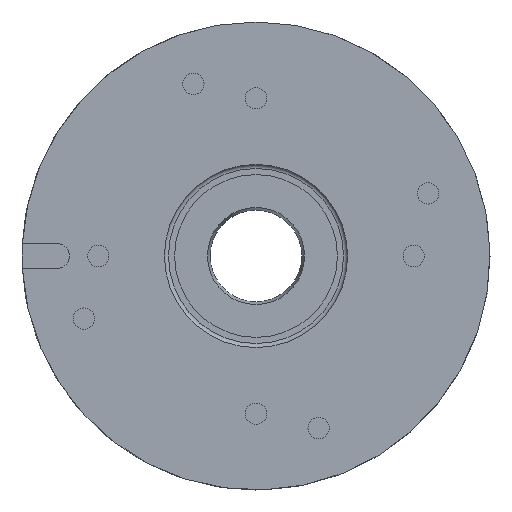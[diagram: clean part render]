
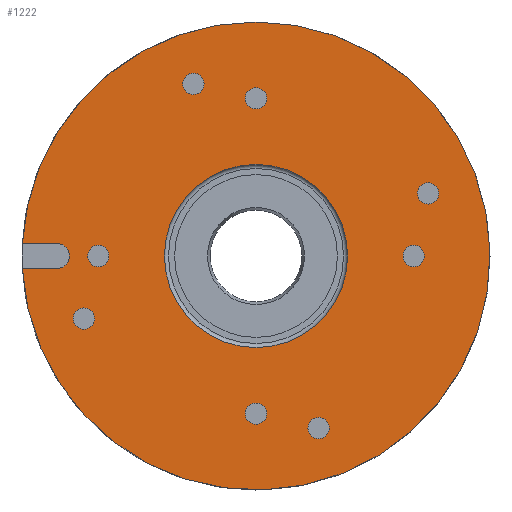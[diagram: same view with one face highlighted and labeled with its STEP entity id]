
A CAD part, left-side view. The second image highlights one B-rep face of the part: STEP entity #1222.
In plain terms, the highlighted planar face has unit normal (-1, 0, 0).
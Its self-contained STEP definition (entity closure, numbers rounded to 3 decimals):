
#8 = DIRECTION ( 'NONE',  ( 1., 0., 0. ) ) ;
#12 = VERTEX_POINT ( 'NONE', #997 ) ;
#20 = LINE ( 'NONE', #1396, #1444 ) ;
#29 = VERTEX_POINT ( 'NONE', #567 ) ;
#45 = DIRECTION ( 'NONE',  ( 0., 1., 0. ) ) ;
#51 = DIRECTION ( 'NONE',  ( -1., 0., 0. ) ) ;
#61 = ORIENTED_EDGE ( 'NONE', *, *, #465, .T. ) ;
#92 = EDGE_CURVE ( 'NONE', #1596, #1596, #1011, .T. ) ;
#111 = EDGE_LOOP ( 'NONE', ( #1311 ) ) ;
#113 = ORIENTED_EDGE ( 'NONE', *, *, #1733, .F. ) ;
#119 = CARTESIAN_POINT ( 'NONE',  ( 2., 0., 0. ) ) ;
#122 = AXIS2_PLACEMENT_3D ( 'NONE', #856, #721, #864 ) ;
#149 = EDGE_CURVE ( 'NONE', #29, #1738, #20, .T. ) ;
#152 = PLANE ( 'NONE',  #200 ) ;
#167 = FACE_BOUND ( 'NONE', #196, .T. ) ;
#168 = DIRECTION ( 'NONE',  ( 0., 0., 1. ) ) ;
#182 = EDGE_CURVE ( 'NONE', #1332, #967, #616, .T. ) ;
#183 = AXIS2_PLACEMENT_3D ( 'NONE', #584, #869, #276 ) ;
#186 = DIRECTION ( 'NONE',  ( -1., 0., 0. ) ) ;
#193 = DIRECTION ( 'NONE',  ( 0., 0., 1. ) ) ;
#196 = EDGE_LOOP ( 'NONE', ( #350 ) ) ;
#200 = AXIS2_PLACEMENT_3D ( 'NONE', #1301, #8, #1450 ) ;
#218 = DIRECTION ( 'NONE',  ( -1., 0., 0. ) ) ;
#276 = DIRECTION ( 'NONE',  ( 0., 0., 1. ) ) ;
#280 = EDGE_CURVE ( 'NONE', #1783, #1783, #1347, .T. ) ;
#309 = EDGE_LOOP ( 'NONE', ( #1684 ) ) ;
#314 = CARTESIAN_POINT ( 'NONE',  ( 2., 0., 31. ) ) ;
#320 = CARTESIAN_POINT ( 'NONE',  ( 2., 39.2, 2.5 ) ) ;
#350 = ORIENTED_EDGE ( 'NONE', *, *, #1718, .F. ) ;
#369 = ORIENTED_EDGE ( 'NONE', *, *, #1195, .F. ) ;
#370 = DIRECTION ( 'NONE',  ( 0., 0., 1. ) ) ;
#415 = FACE_OUTER_BOUND ( 'NONE', #1020, .T. ) ;
#417 = DIRECTION ( 'NONE',  ( -1., 0., 0. ) ) ;
#422 = AXIS2_PLACEMENT_3D ( 'NONE', #1308, #1168, #168 ) ;
#425 = EDGE_LOOP ( 'NONE', ( #369 ) ) ;
#465 = EDGE_CURVE ( 'NONE', #1738, #967, #497, .T. ) ;
#497 = CIRCLE ( 'NONE', #122, 46. ) ;
#498 = CARTESIAN_POINT ( 'NONE',  ( 2., -31., 2.1 ) ) ;
#510 = EDGE_CURVE ( 'NONE', #29, #1332, #1666, .T. ) ;
#519 = DIRECTION ( 'NONE',  ( 0., 1., 0. ) ) ;
#524 = FACE_BOUND ( 'NONE', #623, .T. ) ;
#530 = CARTESIAN_POINT ( 'NONE',  ( 2., 0., 33.1 ) ) ;
#567 = CARTESIAN_POINT ( 'NONE',  ( 2., 39.2, -2.5 ) ) ;
#568 = EDGE_CURVE ( 'NONE', #1117, #1117, #647, .T. ) ;
#578 = CARTESIAN_POINT ( 'NONE',  ( 2., -31., 0. ) ) ;
#584 = CARTESIAN_POINT ( 'NONE',  ( 2., 39.2, 0. ) ) ;
#586 = VERTEX_POINT ( 'NONE', #1793 ) ;
#590 = CARTESIAN_POINT ( 'NONE',  ( 2., 31., 0. ) ) ;
#607 = EDGE_CURVE ( 'NONE', #586, #586, #1139, .T. ) ;
#616 = LINE ( 'NONE', #624, #1324 ) ;
#623 = EDGE_LOOP ( 'NONE', ( #939 ) ) ;
#624 = CARTESIAN_POINT ( 'NONE',  ( 2., 46., 2.5 ) ) ;
#637 = CARTESIAN_POINT ( 'NONE',  ( 2., 12.313, 33.829 ) ) ;
#647 = CIRCLE ( 'NONE', #1757, 2.1 ) ;
#648 = CARTESIAN_POINT ( 'NONE',  ( 2., 0., -31. ) ) ;
#721 = DIRECTION ( 'NONE',  ( -1., 0., 0. ) ) ;
#727 = CARTESIAN_POINT ( 'NONE',  ( 2., -12.313, -33.829 ) ) ;
#731 = DIRECTION ( 'NONE',  ( -1., 0., 0. ) ) ;
#738 = AXIS2_PLACEMENT_3D ( 'NONE', #648, #218, #370 ) ;
#758 = FACE_BOUND ( 'NONE', #1602, .T. ) ;
#830 = FACE_BOUND ( 'NONE', #871, .T. ) ;
#848 = AXIS2_PLACEMENT_3D ( 'NONE', #314, #731, #1478 ) ;
#856 = CARTESIAN_POINT ( 'NONE',  ( 2., 0., 0. ) ) ;
#864 = DIRECTION ( 'NONE',  ( 0., 0., 1. ) ) ;
#869 = DIRECTION ( 'NONE',  ( -1., 0., 0. ) ) ;
#871 = EDGE_LOOP ( 'NONE', ( #1447 ) ) ;
#876 = ORIENTED_EDGE ( 'NONE', *, *, #280, .F. ) ;
#906 = EDGE_CURVE ( 'NONE', #1719, #1719, #957, .T. ) ;
#932 = CARTESIAN_POINT ( 'NONE',  ( 2., 33.829, -10.213 ) ) ;
#939 = ORIENTED_EDGE ( 'NONE', *, *, #92, .F. ) ;
#953 = CIRCLE ( 'NONE', #422, 2.1 ) ;
#957 = CIRCLE ( 'NONE', #1026, 2.1 ) ;
#967 = VERTEX_POINT ( 'NONE', #1796 ) ;
#992 = ORIENTED_EDGE ( 'NONE', *, *, #149, .T. ) ;
#997 = CARTESIAN_POINT ( 'NONE',  ( 2., -33.829, 14.413 ) ) ;
#1011 = CIRCLE ( 'NONE', #1292, 2.1 ) ;
#1016 = EDGE_LOOP ( 'NONE', ( #113 ) ) ;
#1020 = EDGE_LOOP ( 'NONE', ( #1566, #992, #61, #1075 ) ) ;
#1026 = AXIS2_PLACEMENT_3D ( 'NONE', #637, #51, #193 ) ;
#1057 = CARTESIAN_POINT ( 'NONE',  ( 2., 33.829, -12.313 ) ) ;
#1068 = VERTEX_POINT ( 'NONE', #1138 ) ;
#1075 = ORIENTED_EDGE ( 'NONE', *, *, #182, .F. ) ;
#1100 = DIRECTION ( 'NONE',  ( 0., 0., 1. ) ) ;
#1117 = VERTEX_POINT ( 'NONE', #498 ) ;
#1121 = CIRCLE ( 'NONE', #738, 2.1 ) ;
#1138 = CARTESIAN_POINT ( 'NONE',  ( 2., 0., -28.9 ) ) ;
#1139 = CIRCLE ( 'NONE', #1350, 2.1 ) ;
#1166 = DIRECTION ( 'NONE',  ( 0., 0., 1. ) ) ;
#1168 = DIRECTION ( 'NONE',  ( -1., 0., 0. ) ) ;
#1195 = EDGE_CURVE ( 'NONE', #1830, #1830, #1213, .T. ) ;
#1213 = CIRCLE ( 'NONE', #1653, 18. ) ;
#1222 = ADVANCED_FACE ( 'NONE', ( #1230, #1636, #1679, #1804, #524, #758, #1277, #415, #830, #167 ), #152, .F. ) ;
#1229 = CARTESIAN_POINT ( 'NONE',  ( 2., 12.313, 35.929 ) ) ;
#1230 = FACE_BOUND ( 'NONE', #1564, .T. ) ;
#1256 = AXIS2_PLACEMENT_3D ( 'NONE', #1057, #186, #1100 ) ;
#1275 = CIRCLE ( 'NONE', #848, 2.1 ) ;
#1277 = FACE_BOUND ( 'NONE', #425, .T. ) ;
#1292 = AXIS2_PLACEMENT_3D ( 'NONE', #590, #1458, #1312 ) ;
#1297 = DIRECTION ( 'NONE',  ( 0., 0., 1. ) ) ;
#1301 = CARTESIAN_POINT ( 'NONE',  ( 2., 0., 0. ) ) ;
#1308 = CARTESIAN_POINT ( 'NONE',  ( 2., -33.829, 12.313 ) ) ;
#1311 = ORIENTED_EDGE ( 'NONE', *, *, #1824, .F. ) ;
#1312 = DIRECTION ( 'NONE',  ( 0., 0., 1. ) ) ;
#1324 = VECTOR ( 'NONE', #519, 1000. ) ;
#1325 = CARTESIAN_POINT ( 'NONE',  ( 2., 45.932, -2.5 ) ) ;
#1332 = VERTEX_POINT ( 'NONE', #320 ) ;
#1347 = CIRCLE ( 'NONE', #1256, 2.1 ) ;
#1350 = AXIS2_PLACEMENT_3D ( 'NONE', #727, #1440, #1297 ) ;
#1360 = VERTEX_POINT ( 'NONE', #530 ) ;
#1396 = CARTESIAN_POINT ( 'NONE',  ( 2., 0., -2.5 ) ) ;
#1398 = CARTESIAN_POINT ( 'NONE',  ( 2., 31., 2.1 ) ) ;
#1418 = DIRECTION ( 'NONE',  ( 0., 0., 1. ) ) ;
#1426 = DIRECTION ( 'NONE',  ( -1., 0., 0. ) ) ;
#1440 = DIRECTION ( 'NONE',  ( -1., 0., 0. ) ) ;
#1444 = VECTOR ( 'NONE', #45, 1000. ) ;
#1447 = ORIENTED_EDGE ( 'NONE', *, *, #568, .F. ) ;
#1450 = DIRECTION ( 'NONE',  ( 0., 0., -1. ) ) ;
#1458 = DIRECTION ( 'NONE',  ( -1., 0., 0. ) ) ;
#1478 = DIRECTION ( 'NONE',  ( 0., 0., 1. ) ) ;
#1564 = EDGE_LOOP ( 'NONE', ( #1623 ) ) ;
#1566 = ORIENTED_EDGE ( 'NONE', *, *, #510, .F. ) ;
#1596 = VERTEX_POINT ( 'NONE', #1398 ) ;
#1602 = EDGE_LOOP ( 'NONE', ( #876 ) ) ;
#1623 = ORIENTED_EDGE ( 'NONE', *, *, #906, .F. ) ;
#1636 = FACE_BOUND ( 'NONE', #1016, .T. ) ;
#1653 = AXIS2_PLACEMENT_3D ( 'NONE', #119, #1426, #1418 ) ;
#1666 = CIRCLE ( 'NONE', #183, 2.5 ) ;
#1679 = FACE_BOUND ( 'NONE', #111, .T. ) ;
#1684 = ORIENTED_EDGE ( 'NONE', *, *, #607, .F. ) ;
#1718 = EDGE_CURVE ( 'NONE', #1360, #1360, #1275, .T. ) ;
#1719 = VERTEX_POINT ( 'NONE', #1229 ) ;
#1733 = EDGE_CURVE ( 'NONE', #12, #12, #953, .T. ) ;
#1738 = VERTEX_POINT ( 'NONE', #1325 ) ;
#1757 = AXIS2_PLACEMENT_3D ( 'NONE', #578, #417, #1166 ) ;
#1783 = VERTEX_POINT ( 'NONE', #932 ) ;
#1793 = CARTESIAN_POINT ( 'NONE',  ( 2., -12.313, -31.729 ) ) ;
#1796 = CARTESIAN_POINT ( 'NONE',  ( 2., 45.932, 2.5 ) ) ;
#1803 = CARTESIAN_POINT ( 'NONE',  ( 2., 0., 18. ) ) ;
#1804 = FACE_BOUND ( 'NONE', #309, .T. ) ;
#1824 = EDGE_CURVE ( 'NONE', #1068, #1068, #1121, .T. ) ;
#1830 = VERTEX_POINT ( 'NONE', #1803 ) ;
